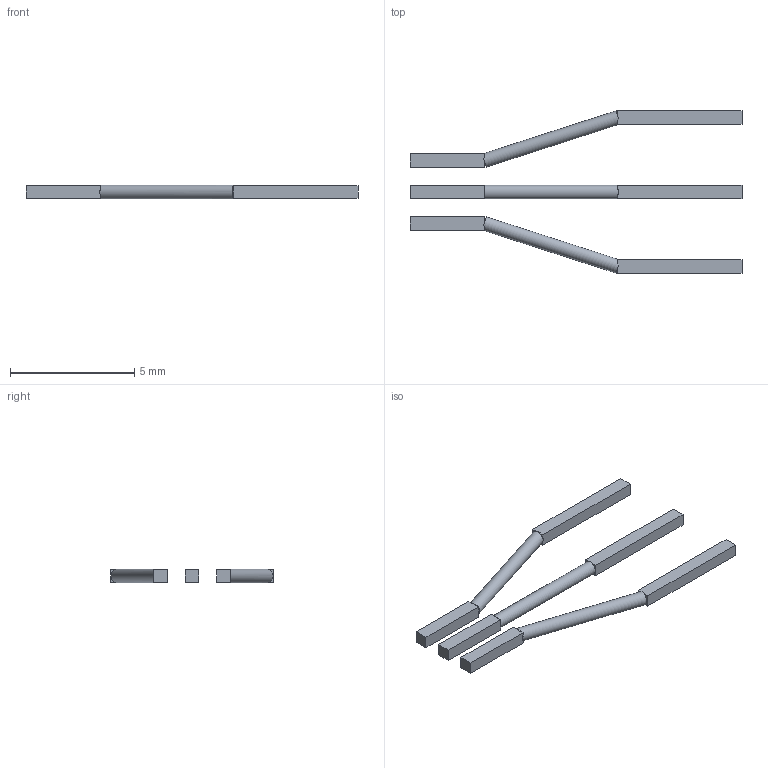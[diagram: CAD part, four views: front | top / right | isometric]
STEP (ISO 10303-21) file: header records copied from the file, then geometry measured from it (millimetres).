
FILE_DESCRIPTION(('Open CASCADE Model'),'2;1');
FILE_NAME('Open CASCADE Shape Model','2026-11-11T17:26:39',('Author'),( 'Open CASCADE'),'Open CASCADE STEP processor 7.9','Open CASCADE 7.9' ,'Unknown');
FILE_SCHEMA(('AUTOMOTIVE_DESIGN { 1 0 10303 214 1 1 1 1 }'));
Length unit declared in the file: millimetre
Products named in the file (4): Open CASCADE STEP translator 7.9 16; Open CASCADE STEP translator 7.9 16.1; Open CASCADE STEP translator 7.9 16.2; Open CASCADE STEP translator 7.9 16.3
Assembly tree (3 placements, depth 2):
  Open CASCADE STEP translator 7.9 16
    Open CASCADE STEP translator 7.9 16.1
    Open CASCADE STEP translator 7.9 16.2
    Open CASCADE STEP translator 7.9 16.3
Bounding box: 13.38 x 6.55 x 0.55 mm (x, y, z)
Volume: 10.7 mm3; surface area: 82.3 mm2
Topology: 3 solids, 3 shells, 61 faces, 161 edges, 106 vertices
Faces by surface type: plane 58, cylinder 3
Full cylindrical faces by diameter (mm): 0.55 x3
Entity records: 4032 total; most frequent: CARTESIAN_POINT 812, DIRECTION 569, LINE 337, VECTOR 337, ORIENTED_EDGE 322, PCURVE 322, DEFINITIONAL_REPRESENTATION 322, EDGE_CURVE 161
